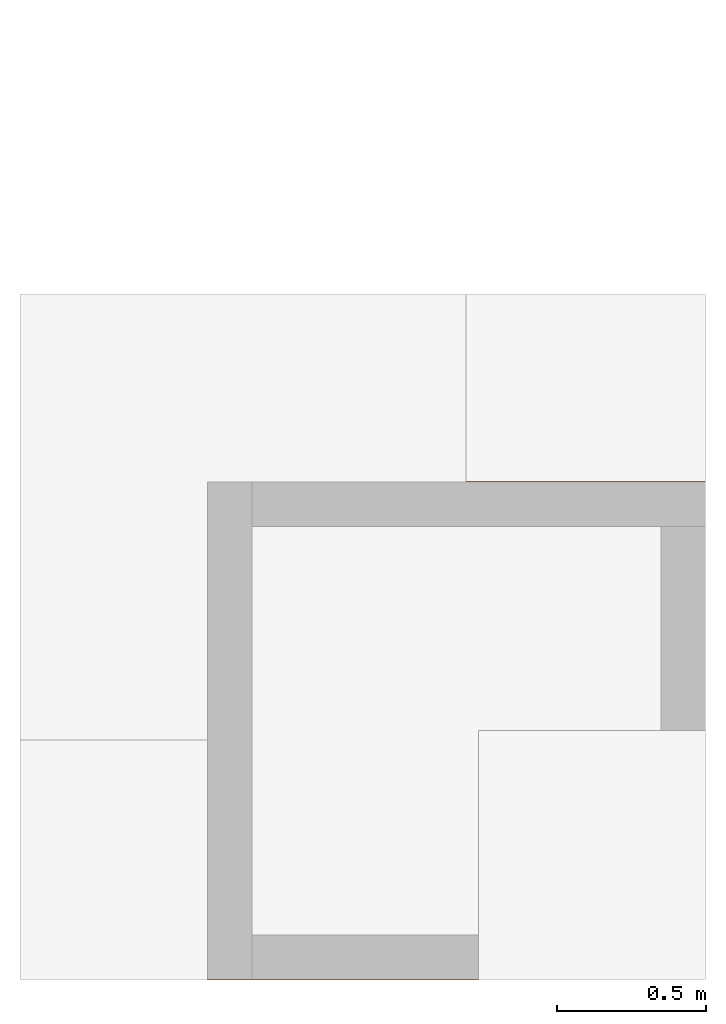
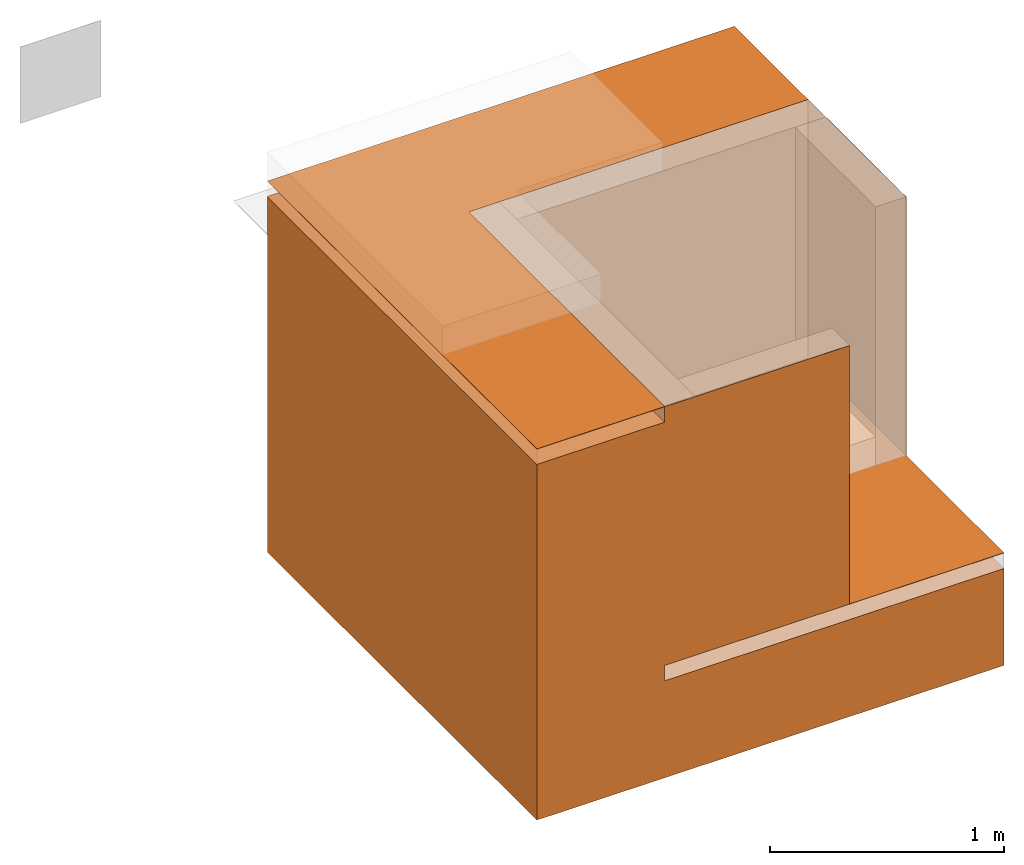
# One storey, part 2 of 2: 1 proxy.
"""IFC2X3 building model written with IfcOpenShell, lengths in metres."""

from ifc_helpers import new_model, entity, si_unit, converted_unit, derived_unit, direction, frame, frame_2d, origin, origin_2d_with_axis, place, context, subcontext, project, spatial, polyline, rectangle, outline, extrude, source, transform, mapped, material, material_list, type_object, type_shapes, element, save


model = new_model("IFC2X3")

# Units and contexts
model_context = context("Model", 3, precision=1e-05, world=origin(), true_north=direction((6.123031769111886e-17, 1.0)))
body_context = subcontext(model_context, "Body", "Model", "MODEL_VIEW")
ifc_project = project(units=[si_unit("LENGTHUNIT", "METRE"), si_unit("AREAUNIT", "SQUARE_METRE"), si_unit("VOLUMEUNIT", "CUBIC_METRE"), converted_unit("PLANEANGLEUNIT", "DEGREE", entity("IfcRatioMeasure", 0.017453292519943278), si_unit("PLANEANGLEUNIT", "RADIAN"), dimensions=[0, 0, 0, 0, 0, 0, 0]), si_unit("MASSUNIT", "GRAM", prefix="KILO"), derived_unit("MASSDENSITYUNIT", [(si_unit("MASSUNIT", "GRAM", prefix="KILO"), 1), (si_unit("LENGTHUNIT", "METRE"), -3)]), derived_unit("IONCONCENTRATIONUNIT", [(si_unit("MASSUNIT", "GRAM", prefix="KILO"), 1), (si_unit("LENGTHUNIT", "METRE"), -3)]), derived_unit("MOMENTOFINERTIAUNIT", [(si_unit("LENGTHUNIT", "METRE"), 4)]), si_unit("TIMEUNIT", "SECOND"), si_unit("FREQUENCYUNIT", "HERTZ"), si_unit("THERMODYNAMICTEMPERATUREUNIT", "DEGREE_CELSIUS"), derived_unit("THERMALTRANSMITTANCEUNIT", [(si_unit("MASSUNIT", "GRAM", prefix="KILO"), 1), (si_unit("THERMODYNAMICTEMPERATUREUNIT", "KELVIN"), -1), (si_unit("TIMEUNIT", "SECOND"), -3)]), derived_unit("THERMALCONDUCTANCEUNIT", [(si_unit("MASSUNIT", "GRAM", prefix="KILO"), 1), (si_unit("THERMODYNAMICTEMPERATUREUNIT", "KELVIN"), -1), (si_unit("TIMEUNIT", "SECOND"), -3), (si_unit("LENGTHUNIT", "METRE"), 1)]), derived_unit("VOLUMETRICFLOWRATEUNIT", [(si_unit("LENGTHUNIT", "METRE"), 3), (si_unit("TIMEUNIT", "SECOND"), -1)]), derived_unit("MASSFLOWRATEUNIT", [(si_unit("MASSUNIT", "GRAM", prefix="KILO"), 1), (si_unit("TIMEUNIT", "SECOND"), -1)]), derived_unit("ROTATIONALFREQUENCYUNIT", [(si_unit("TIMEUNIT", "SECOND"), -1)]), si_unit("ELECTRICCURRENTUNIT", "AMPERE"), si_unit("ELECTRICVOLTAGEUNIT", "VOLT"), si_unit("POWERUNIT", "WATT"), si_unit("FORCEUNIT", "NEWTON", prefix="KILO"), si_unit("ILLUMINANCEUNIT", "LUX"), si_unit("LUMINOUSFLUXUNIT", "LUMEN"), si_unit("LUMINOUSINTENSITYUNIT", "CANDELA"), derived_unit("USERDEFINED", [(si_unit("MASSUNIT", "GRAM", prefix="KILO"), -1), (si_unit("LENGTHUNIT", "METRE"), -2), (si_unit("TIMEUNIT", "SECOND"), 3), (si_unit("LUMINOUSFLUXUNIT", "LUMEN"), 1)]), derived_unit("USERDEFINED", [(si_unit("MASSUNIT", "GRAM", prefix="KILO"), 1), (si_unit("TIMEUNIT", "SECOND"), -3), (si_unit("LENGTHUNIT", "METRE"), 3), (si_unit("ELECTRICCURRENTUNIT", "AMPERE"), -2)]), derived_unit("SOUNDPOWERUNIT", [(si_unit("MASSUNIT", "GRAM", prefix="KILO"), 1), (si_unit("TIMEUNIT", "SECOND"), -3), (si_unit("LENGTHUNIT", "METRE"), 2)]), derived_unit("SOUNDPRESSUREUNIT", [(si_unit("MASSUNIT", "GRAM", prefix="KILO"), 1), (si_unit("LENGTHUNIT", "METRE"), -1), (si_unit("TIMEUNIT", "SECOND"), -2)]), derived_unit("LINEARVELOCITYUNIT", [(si_unit("LENGTHUNIT", "METRE"), 1), (si_unit("TIMEUNIT", "SECOND"), -1)]), si_unit("PRESSUREUNIT", "PASCAL"), derived_unit("USERDEFINED", [(si_unit("MASSUNIT", "GRAM", prefix="KILO"), 1), (si_unit("LENGTHUNIT", "METRE"), -2), (si_unit("TIMEUNIT", "SECOND"), -2)]), derived_unit("LINEARFORCEUNIT", [(si_unit("MASSUNIT", "GRAM", prefix="KILO"), 1), (si_unit("TIMEUNIT", "SECOND"), -2)]), derived_unit("PLANARFORCEUNIT", [(si_unit("MASSUNIT", "GRAM", prefix="KILO"), 1), (si_unit("LENGTHUNIT", "METRE"), -1), (si_unit("TIMEUNIT", "SECOND"), -2)]), derived_unit("SPECIFICHEATCAPACITYUNIT", [(si_unit("THERMODYNAMICTEMPERATUREUNIT", "KELVIN"), -1), (si_unit("LENGTHUNIT", "METRE"), 2), (si_unit("TIMEUNIT", "SECOND"), -2)]), derived_unit("HEATINGVALUEUNIT", [(si_unit("LENGTHUNIT", "METRE"), 2), (si_unit("TIMEUNIT", "SECOND"), -2)]), derived_unit("VAPORPERMEABILITYUNIT", [(si_unit("LENGTHUNIT", "METRE"), -1), (si_unit("TIMEUNIT", "SECOND"), 1)]), derived_unit("DYNAMICVISCOSITYUNIT", [(si_unit("MASSUNIT", "GRAM", prefix="KILO"), 1), (si_unit("TIMEUNIT", "SECOND"), -1), (si_unit("LENGTHUNIT", "METRE"), -1)]), derived_unit("THERMALEXPANSIONCOEFFICIENTUNIT", [(si_unit("THERMODYNAMICTEMPERATUREUNIT", "KELVIN"), -1)]), derived_unit("MODULUSOFELASTICITYUNIT", [(si_unit("MASSUNIT", "GRAM", prefix="KILO"), 1), (si_unit("LENGTHUNIT", "METRE"), -1), (si_unit("TIMEUNIT", "SECOND"), -2)]), derived_unit("ISOTHERMALMOISTURECAPACITYUNIT", [(si_unit("LENGTHUNIT", "METRE"), 3), (si_unit("MASSUNIT", "GRAM", prefix="KILO"), -1)]), derived_unit("MOISTUREDIFFUSIVITYUNIT", [(si_unit("TIMEUNIT", "SECOND"), -1), (si_unit("LENGTHUNIT", "METRE"), 2)])], contexts=[model_context])

# Site, building, storey
site_placement = place(None, origin())
site = spatial("IfcSite", under=ifc_project, at=site_placement, Name="Default", CompositionType="ELEMENT")
building_placement = place(site_placement, origin())
building = spatial("IfcBuilding", under=site, at=building_placement, CompositionType="ELEMENT")
storey_placement = place(building_placement, frame((0.0, 0.0, -0.0025237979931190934)))
storey = spatial("IfcBuildingStorey", under=building, at=storey_placement, Name="ARQ Térreo", CompositionType="ELEMENT", Elevation=-0.0025237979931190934)

# Proxy
ifc_material_1 = material(Name="#solo")
ifc_material_2 = material(Name="#AMPHIBIA(1)")
ifc_material_3 = material(Name="#AMPHIBIA")
ifc_material_list = material_list([ifc_material_1, ifc_material_2, ifc_material_3])
building_element_proxy_type = type_object("IfcBuildingElementProxyType", Name="Modelos genéricos 1:Modelos genéricos 1", PredefinedType="NOTDEFINED", material=ifc_material_list)
shared_shape = source(origin(), body_context, "Body", "SweptSolid", [
    extrude(rectangle(XDim=1.8568000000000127, YDim=0.6311017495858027, at=frame_2d((0.06311017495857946, 0.08431999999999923), x_axis=(0.0, 1.0))), frame((-1.1330721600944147, 0.39831071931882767, 0.2534562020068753), z_axis=(1.0, 0.0, 0.0), x_axis=(0.0, 1.0, 0.0)), (0.0, 0.0, 1.0), 2.306101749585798),
    extrude(outline(polyline([(-1.3270339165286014, -0.9786344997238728), (0.9790678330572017, -0.9786344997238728), (0.9790678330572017, 1.327467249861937), (0.3479660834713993, 1.327467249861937), (0.3479660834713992, -0.34883275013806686), (-1.3270339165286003, -0.3488327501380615), (-1.3270339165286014, -0.9786344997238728)])), frame((-0.15400432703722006, -0.20166273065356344, 1.3461762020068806), z_axis=(0.0, 0.0, 1.0), x_axis=(-1.0, 0.0, 0.0)), (0.0, 0.0, 1.0), 0.0012999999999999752),
    extrude(rectangle(XDim=0.0012999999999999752, YDim=1.6762999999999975, at=frame_2d((6.765421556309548e-17, 0.0), x_axis=(1.0, 0.0))), frame((-0.5026204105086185, -0.6922799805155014, -0.0025237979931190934), z_axis=(0.0, 0.0, 1.0), x_axis=(-1.0, 0.0, 0.0)), (0.0, 0.0, 1.0), 1.35),
    extrude(outline(polyline([(-0.27873333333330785, 0.5579000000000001), (0.5587666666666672, 0.5579000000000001), (0.5587666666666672, 0.5591999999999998), (-0.280033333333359, 0.5592), (-0.2800333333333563, -1.1171000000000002), (-0.2787333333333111, -1.1171000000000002), (-0.27873333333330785, 0.5579000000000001)])), frame((0.6151295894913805, -0.13286331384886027, -0.0025237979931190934), z_axis=(0.0, 0.0, 1.0), x_axis=(0.0, -1.0, 0.0)), (0.0, 0.0, 1.0), 1.35),
    extrude(rectangle(XDim=0.0012999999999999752, YDim=0.9125000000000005, at=frame_2d((-6.767589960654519e-16, 0.0), x_axis=(1.0, 0.0))), frame((-0.04572041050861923, -1.5297799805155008, -0.0025237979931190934), z_axis=(0.0, 0.0, 1.0), x_axis=(0.0, -1.0, 0.0)), (0.0, 0.0, 1.0), 1.35),
    extrude(rectangle(XDim=1.6749999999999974, YDim=1.6749999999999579, at=origin_2d_with_axis()), frame((0.3355295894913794, -0.6916299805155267, -0.003823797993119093), z_axis=(0.0, 0.0, 1.0), x_axis=(-1.0, 0.0, 0.0)), (0.0, 0.0, 1.0), 0.0012999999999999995),
    extrude(outline(polyline([(-1.327033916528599, -0.7878666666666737), (0.9790678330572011, -0.7878666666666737), (0.9790678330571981, 1.0689333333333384), (0.3479660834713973, 1.0689333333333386), (0.34796608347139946, -0.281066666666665), (-1.3270339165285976, -0.2810666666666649), (-1.327033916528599, -0.7878666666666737)])), frame((-0.15400432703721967, -1.5291299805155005, 0.19724286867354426), z_axis=(0.0, 1.0, 0.0), x_axis=(-1.0, 0.0, 0.0)), (0.0, 0.0, 1.0), 1.674999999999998),
])
type_shapes(building_element_proxy_type, [shared_shape])
proxy_placement = place(storey_placement, frame((0.0, 0.0, 0.0025237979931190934)))
element("IfcBuildingElementProxy", 1, at=proxy_placement, inside=storey, type_object=building_element_proxy_type, material=ifc_material_list, Name="Modelos genéricos 1:Modelos genéricos 1", ObjectType="Modelos genéricos 1:Modelos genéricos 1", context=body_context, shape_type="MappedRepresentation", body=[
    mapped(shared_shape, transform((0.0, 0.0, 0.0), scale=1.0)),
])

save(model, "model.ifc")
